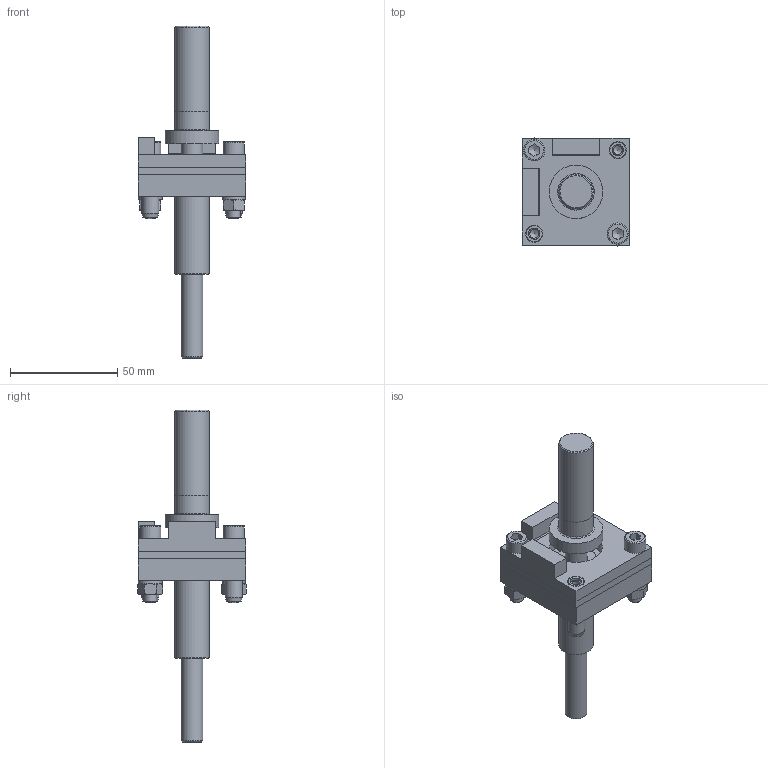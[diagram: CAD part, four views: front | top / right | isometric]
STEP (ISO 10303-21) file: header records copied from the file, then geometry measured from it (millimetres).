
FILE_DESCRIPTION(/* description */ (''),/* implementation_level */ '2;1');
FILE_NAME(/* name */ 'C:\Local Work Area\Progetti\AP\CALIBRI\07.00-SF CALIBRO SONDA FORI\07.00-SF.stp',/* time_stamp */ '2020-11-02T10:13:20+01:00',/* author */ ('CAD5'),/* organization */ (''),/* preprocessor_version */ 'ST-DEVELOPER v17.2',/* originating_system */ 'Autodesk Inventor 2019',/* authorisation */ '');
FILE_SCHEMA (('AUTOMOTIVE_DESIGN { 1 0 10303 214 3 1 1 }'));
Length unit declared in the file: millimetre
Products named in the file (12): 07.00-SF; 07.05; 07.02; 07.11; 07.03; 07.00-01; 07.04; 07.06; UNI 5931 - M 6 x  30; UNI 5588 - M6; UNI 6592 8.8 - 6,4 x 11; ISO 8735 - 8 x 30 - A
Assembly tree (15 placements, depth 3):
  07.00-SF
    07.05
    07.02
    07.11
    07.03
    07.00-01
      07.04
      07.06
    UNI 5931 - M 6 x  30  x2
    UNI 5588 - M6  x2
    UNI 6592 8.8 - 6,4 x 11  x2
    ISO 8735 - 8 x 30 - A  x2
Bounding box: 50 x 50.55 x 155 mm (x, y, z)
Volume: 68535 mm3; surface area: 38109.9 mm2
Topology: 14 solids, 14 shells, 187 faces, 467 edges, 320 vertices
Faces by surface type: plane 82, cylinder 49, cone 49, torus 5, sphere 2
Full cylindrical faces by diameter (mm): 3.242 x1, 4.135 x2, 4.917 x2, 5.3 x2, 6 x3, 6.2 x2, 6.4 x2, 6.5 x2, 8 x6, 8.2 x4, 10 x6, 10.2 x2, 11 x3, 15.98 x1, 16 x2, 19 x1, 24 x1, 24.5 x1, 25 x2, 35 x1, 44 x1
Entity records: 4730 total; most frequent: DIRECTION 812, CARTESIAN_POINT 808, ORIENTED_EDGE 684, EDGE_CURVE 342, AXIS2_PLACEMENT_3D 338, VERTEX_POINT 241, EDGE_LOOP 187, CIRCLE 175
